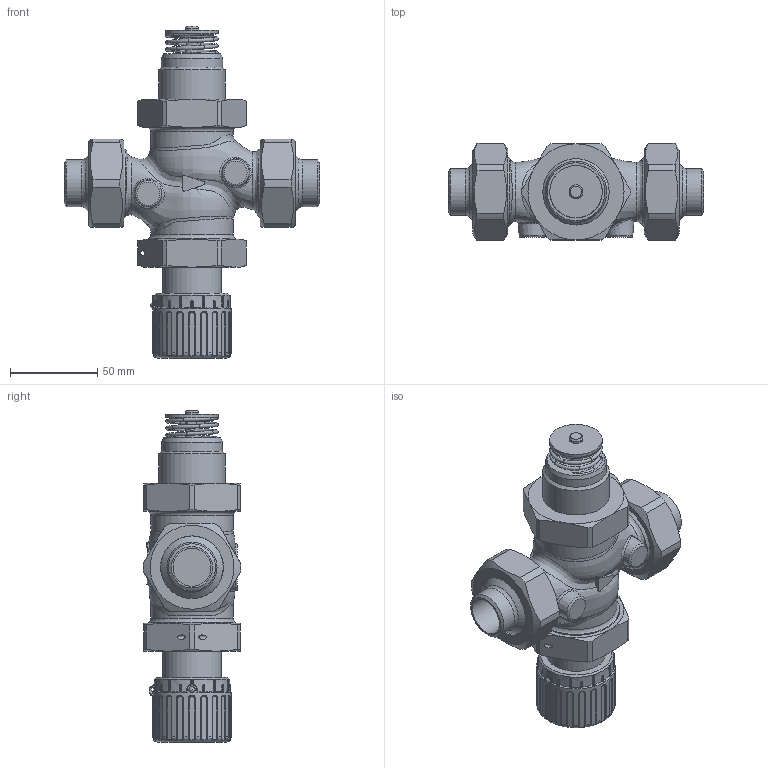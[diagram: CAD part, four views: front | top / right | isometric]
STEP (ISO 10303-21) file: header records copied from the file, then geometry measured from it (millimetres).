
FILE_DESCRIPTION(/* description */ (''),/* implementation_level */ '2;1');
FILE_NAME(/* name */ 'rv122p_dn20_W.stp',/* time_stamp */ '2012-11-05T15:44:56+01:00',/* author */ ('JENIK'),/* organization */ ('LDM'),/* preprocessor_version */ 'ST-DEVELOPER v11',/* originating_system */ 'SIEMENS PLM Software NX 7.0',/* authorisation */ '');
FILE_SCHEMA (('CONFIG_CONTROL_DESIGN'));
Length unit declared in the file: millimetre
Products named in the file (1): jeniA85B0dtb
Bounding box: 146 x 55.98 x 190 mm (x, y, z)
Volume: 59813.9 mm3; surface area: 73418.2 mm2
Topology: 6 solids, 7 shells, 600 faces, 1489 edges, 919 vertices
Faces by surface type: cylinder 216, plane 155, bspline 103, torus 72, cone 53, sphere 1
Full cylindrical faces by diameter (mm): 2 x1, 2.5 x1, 8 x2, 21.7 x2, 24.5 x1, 26.9 x2, 28 x2, 30 x1, 33.8 x1, 35 x1, 35.8 x2, 36 x2, 37 x1, 38 x3, 38.6 x2, 38.952 x2, 41.91 x2, 43 x1, 47 x2
Entity records: 28086 total; most frequent: CARTESIAN_POINT 15356, ORIENTED_EDGE 2686, DIRECTION 2432, EDGE_CURVE 1343, AXIS2_PLACEMENT_3D 1024, VERTEX_POINT 865, EDGE_LOOP 726, ADVANCED_FACE 600
